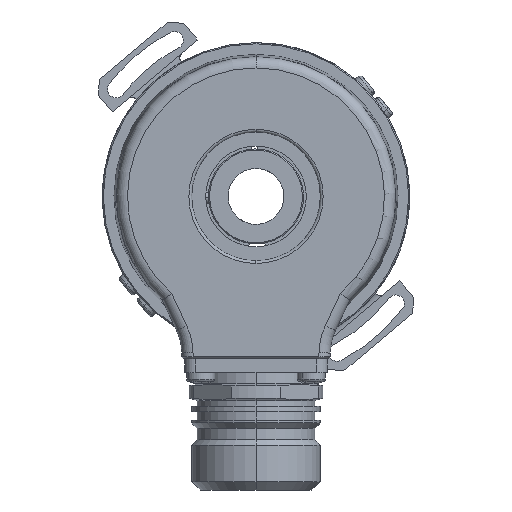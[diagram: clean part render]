
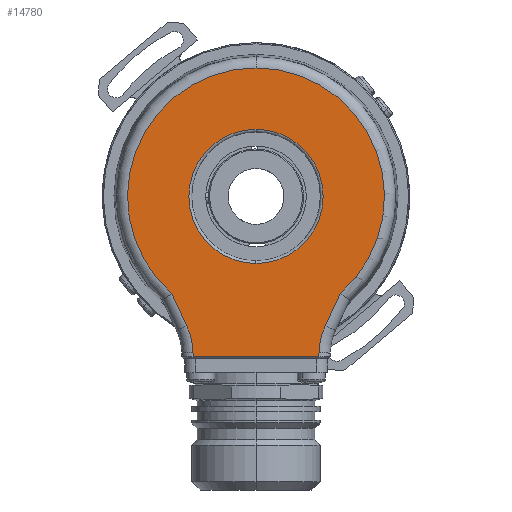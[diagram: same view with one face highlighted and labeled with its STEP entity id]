
A CAD part, left-side view. The second image highlights one B-rep face of the part: STEP entity #14780.
In plain terms, the highlighted planar face has unit normal (-1, 0, 0).
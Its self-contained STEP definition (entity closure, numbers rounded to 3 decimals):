
#4359 = CARTESIAN_POINT ( 'NONE',  ( -21., 0., -12. ) ) ;
#4523 = CARTESIAN_POINT ( 'NONE',  ( -21., 0., 12. ) ) ;
#4587 = DIRECTION ( 'NONE',  ( 0., 0., 1. ) ) ;
#4588 = DIRECTION ( 'NONE',  ( 1., 0., 0. ) ) ;
#4589 = CARTESIAN_POINT ( 'NONE',  ( -21., 0., 0. ) ) ;
#4590 = AXIS2_PLACEMENT_3D ( 'NONE', #4589, #4588, #4587 ) ;
#4591 = CIRCLE ( 'NONE', #4590, 12. ) ;
#4708 = CARTESIAN_POINT ( 'NONE',  ( -21., 0., 22.972 ) ) ;
#4709 = DIRECTION ( 'NONE',  ( 0., 0., 1. ) ) ;
#4710 = DIRECTION ( 'NONE',  ( -1., 0., 0. ) ) ;
#4711 = CARTESIAN_POINT ( 'NONE',  ( -21., 0., 0. ) ) ;
#4712 = AXIS2_PLACEMENT_3D ( 'NONE', #4711, #4710, #4709 ) ;
#4717 = CIRCLE ( 'NONE', #4712, 22.972 ) ;
#4731 = CARTESIAN_POINT ( 'NONE',  ( -21., 15.091, -17.32 ) ) ;
#5073 = DIRECTION ( 'NONE',  ( 0., 0., 1. ) ) ;
#5074 = DIRECTION ( 'NONE',  ( 1., 0., 0. ) ) ;
#5075 = CARTESIAN_POINT ( 'NONE',  ( -21., -23.266, -28.183 ) ) ;
#5076 = AXIS2_PLACEMENT_3D ( 'NONE', #5075, #5074, #5073 ) ;
#5082 = CIRCLE ( 'NONE', #5076, 12. ) ;
#5199 = CARTESIAN_POINT ( 'NONE',  ( -21., -12.39, -23.112 ) ) ;
#5200 = CARTESIAN_POINT ( 'NONE',  ( -21., -11.268, -27.974 ) ) ;
#5235 = CARTESIAN_POINT ( 'NONE',  ( -21., -15.091, -17.32 ) ) ;
#5492 = DIRECTION ( 'NONE',  ( 0., -0.423, 0.906 ) ) ;
#5493 = VECTOR ( 'NONE', #5492, 1000. ) ;
#5494 = CARTESIAN_POINT ( 'NONE',  ( -21., -14.953, -17.615 ) ) ;
#5495 = LINE ( 'NONE', #5494, #5493 ) ;
#6277 = DIRECTION ( 'NONE',  ( 0., -1., 0. ) ) ;
#6278 = VECTOR ( 'NONE', #6277, 1000. ) ;
#6279 = CARTESIAN_POINT ( 'NONE',  ( -21., -11.25, -28.695 ) ) ;
#6280 = LINE ( 'NONE', #6279, #6278 ) ;
#6281 = CARTESIAN_POINT ( 'NONE',  ( -21., 11.255, -28.695 ) ) ;
#6291 = CARTESIAN_POINT ( 'NONE',  ( -21., -11.255, -28.695 ) ) ;
#6714 = DIRECTION ( 'NONE',  ( 0., -0.017, -1. ) ) ;
#6715 = VECTOR ( 'NONE', #6714, 1000. ) ;
#6716 = CARTESIAN_POINT ( 'NONE',  ( -21., 11.752, -0.205 ) ) ;
#6717 = LINE ( 'NONE', #6716, #6715 ) ;
#8691 = DIRECTION ( 'NONE',  ( 0., 0., 1. ) ) ;
#8693 = DIRECTION ( 'NONE',  ( 1., 0., 0. ) ) ;
#8694 = CARTESIAN_POINT ( 'NONE',  ( -21., 0., 0. ) ) ;
#8695 = AXIS2_PLACEMENT_3D ( 'NONE', #8694, #8693, #8691 ) ;
#8697 = CIRCLE ( 'NONE', #8695, 12. ) ;
#8732 = CARTESIAN_POINT ( 'NONE',  ( -21., 12.39, -23.112 ) ) ;
#8739 = DIRECTION ( 'NONE',  ( 0., 0., 1. ) ) ;
#8740 = DIRECTION ( 'NONE',  ( -1., 0., 0. ) ) ;
#8741 = CARTESIAN_POINT ( 'NONE',  ( -21., 0., 0. ) ) ;
#8742 = AXIS2_PLACEMENT_3D ( 'NONE', #8741, #8740, #8739 ) ;
#8747 = CIRCLE ( 'NONE', #8742, 22.972 ) ;
#8757 = DIRECTION ( 'NONE',  ( 0., 0., 1. ) ) ;
#8758 = DIRECTION ( 'NONE',  ( 1., 0., 0. ) ) ;
#8759 = CARTESIAN_POINT ( 'NONE',  ( -21., 23.266, -28.183 ) ) ;
#8760 = AXIS2_PLACEMENT_3D ( 'NONE', #8759, #8758, #8757 ) ;
#8765 = CIRCLE ( 'NONE', #8760, 12. ) ;
#8791 = DIRECTION ( 'NONE',  ( 0., -0.423, -0.906 ) ) ;
#8792 = VECTOR ( 'NONE', #8791, 1000. ) ;
#8793 = CARTESIAN_POINT ( 'NONE',  ( -21., 12.39, -23.112 ) ) ;
#8795 = LINE ( 'NONE', #8793, #8792 ) ;
#8800 = CARTESIAN_POINT ( 'NONE',  ( -21., 11.268, -27.974 ) ) ;
#8886 = PLANE ( 'NONE',  #8942 ) ;
#8901 = FACE_OUTER_BOUND ( 'NONE', #14783, .T. ) ;
#8902 = FACE_BOUND ( 'NONE', #14709, .T. ) ;
#8903 = DIRECTION ( 'NONE',  ( 0., -0.017, 1. ) ) ;
#8904 = VECTOR ( 'NONE', #8903, 1000. ) ;
#8905 = CARTESIAN_POINT ( 'NONE',  ( -21., -11.752, -0.205 ) ) ;
#8906 = LINE ( 'NONE', #8905, #8904 ) ;
#8939 = DIRECTION ( 'NONE',  ( 0., 0., 1. ) ) ;
#8940 = DIRECTION ( 'NONE',  ( 1., 0., 0. ) ) ;
#8941 = CARTESIAN_POINT ( 'NONE',  ( -21., 0., 0. ) ) ;
#8942 = AXIS2_PLACEMENT_3D ( 'NONE', #8941, #8940, #8939 ) ;
#14010 = VERTEX_POINT ( 'NONE', #4359 ) ;
#14045 = VERTEX_POINT ( 'NONE', #4523 ) ;
#14067 = EDGE_CURVE ( 'NONE', #14045, #14010, #4591, .T. ) ;
#14097 = EDGE_CURVE ( 'NONE', #14098, #14110, #4717, .T. ) ;
#14098 = VERTEX_POINT ( 'NONE', #4708 ) ;
#14110 = VERTEX_POINT ( 'NONE', #4731 ) ;
#14206 = EDGE_CURVE ( 'NONE', #14240, #14241, #5082, .T. ) ;
#14240 = VERTEX_POINT ( 'NONE', #5200 ) ;
#14241 = VERTEX_POINT ( 'NONE', #5199 ) ;
#14276 = VERTEX_POINT ( 'NONE', #5235 ) ;
#14338 = EDGE_CURVE ( 'NONE', #14241, #14276, #5495, .T. ) ;
#14588 = VERTEX_POINT ( 'NONE', #6291 ) ;
#14593 = VERTEX_POINT ( 'NONE', #6281 ) ;
#14595 = EDGE_CURVE ( 'NONE', #14593, #14588, #6280, .T. ) ;
#14694 = EDGE_CURVE ( 'NONE', #14733, #14593, #6717, .T. ) ;
#14706 = EDGE_CURVE ( 'NONE', #14010, #14045, #8697, .T. ) ;
#14709 = EDGE_LOOP ( 'NONE', ( #14781, #14782 ) ) ;
#14724 = EDGE_CURVE ( 'NONE', #14276, #14098, #8747, .T. ) ;
#14726 = VERTEX_POINT ( 'NONE', #8732 ) ;
#14729 = EDGE_CURVE ( 'NONE', #14726, #14733, #8765, .T. ) ;
#14733 = VERTEX_POINT ( 'NONE', #8800 ) ;
#14740 = EDGE_CURVE ( 'NONE', #14110, #14726, #8795, .T. ) ;
#14776 = EDGE_CURVE ( 'NONE', #14588, #14240, #8906, .T. ) ;
#14777 = ORIENTED_EDGE ( 'NONE', *, *, #14776, .T. ) ;
#14778 = ORIENTED_EDGE ( 'NONE', *, *, #14694, .T. ) ;
#14779 = ORIENTED_EDGE ( 'NONE', *, *, #14595, .T. ) ;
#14780 = ADVANCED_FACE ( 'NONE', ( #8902, #8901 ), #8886, .F. ) ;
#14781 = ORIENTED_EDGE ( 'NONE', *, *, #14067, .T. ) ;
#14782 = ORIENTED_EDGE ( 'NONE', *, *, #14706, .T. ) ;
#14783 = EDGE_LOOP ( 'NONE', ( #14778, #14779, #14777, #16107, #16109, #16110, #16111, #16112, #16113 ) ) ;
#16107 = ORIENTED_EDGE ( 'NONE', *, *, #14206, .T. ) ;
#16109 = ORIENTED_EDGE ( 'NONE', *, *, #14338, .T. ) ;
#16110 = ORIENTED_EDGE ( 'NONE', *, *, #14724, .T. ) ;
#16111 = ORIENTED_EDGE ( 'NONE', *, *, #14097, .T. ) ;
#16112 = ORIENTED_EDGE ( 'NONE', *, *, #14740, .T. ) ;
#16113 = ORIENTED_EDGE ( 'NONE', *, *, #14729, .T. ) ;
